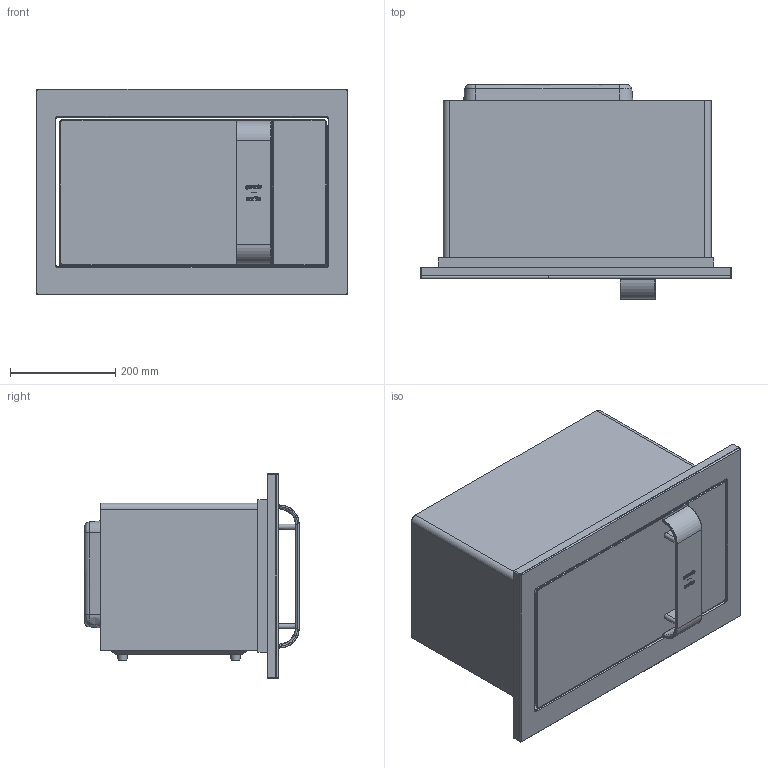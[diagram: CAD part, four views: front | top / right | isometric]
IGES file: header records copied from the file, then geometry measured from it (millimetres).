
Start section: SolidWorks IGES file using analytic representation for surfaces
Global section: file name: E:\3D za kuhinjaše\3D za kuhinjaše-ORA\728171_BM235ORAW\728171_BM235ORAW\728171_BM235ORAW.IGS; native system: SolidWorks 2016; preprocessor: SolidWorks 2016; author: kristijan.lamesic; date: 170320.114728; units: millimetre
Bounding box: 592 x 407.97 x 390 mm (x, y, z)
Surface area: 2188198.6 mm2 (no closed solid volume)
Topology: 0 solids, 0 shells, 587 faces, 5188 edges, 5183 vertices
Faces by surface type: bspline 463, revolution 124
